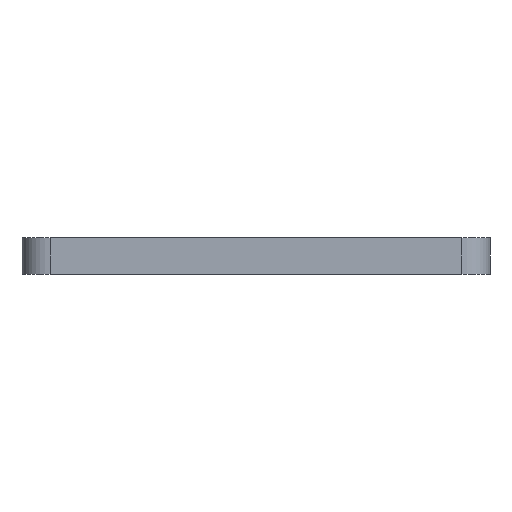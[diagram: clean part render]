
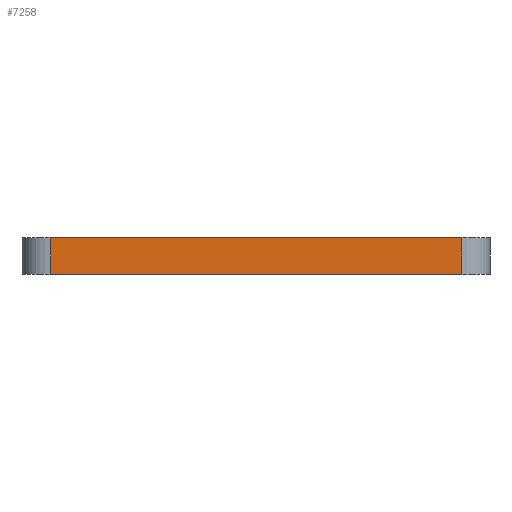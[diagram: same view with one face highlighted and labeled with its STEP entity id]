
A CAD part, left-side view. The second image highlights one B-rep face of the part: STEP entity #7258.
In plain terms, the highlighted planar face has unit normal (-1, 0, 0).
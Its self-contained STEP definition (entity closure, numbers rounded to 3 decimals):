
#137=PLANE('',#7788);
#543=FACE_OUTER_BOUND('',#969,.T.);
#969=EDGE_LOOP('',(#6362,#6363,#6364,#6365));
#2094=LINE('',#18264,#2420);
#2153=LINE('',#31227,#2479);
#2154=LINE('',#31230,#2480);
#2155=LINE('',#31231,#2481);
#2420=VECTOR('',#8684,1000.);
#2479=VECTOR('',#9107,1000.);
#2480=VECTOR('',#9110,1000.);
#2481=VECTOR('',#9111,1000.);
#3117=VERTEX_POINT('',#18261);
#3118=VERTEX_POINT('',#18263);
#3225=VERTEX_POINT('',#31225);
#3226=VERTEX_POINT('',#31229);
#4041=EDGE_CURVE('',#3117,#3118,#2094,.T.);
#4320=EDGE_CURVE('',#3117,#3225,#2153,.T.);
#4321=EDGE_CURVE('',#3225,#3226,#2154,.T.);
#4322=EDGE_CURVE('',#3118,#3226,#2155,.T.);
#6362=ORIENTED_EDGE('',*,*,#4321,.T.);
#6363=ORIENTED_EDGE('',*,*,#4322,.F.);
#6364=ORIENTED_EDGE('',*,*,#4041,.F.);
#6365=ORIENTED_EDGE('',*,*,#4320,.T.);
#7258=ADVANCED_FACE('',(#543),#137,.F.);
#7788=AXIS2_PLACEMENT_3D('',#31228,#9108,#9109);
#8684=DIRECTION('',(0.,-1.,0.));
#9107=DIRECTION('',(0.,0.,-1.));
#9108=DIRECTION('center_axis',(1.,0.,0.));
#9109=DIRECTION('ref_axis',(0.,1.,0.));
#9110=DIRECTION('',(0.,-1.,0.));
#9111=DIRECTION('',(0.,0.,-1.));
#18261=CARTESIAN_POINT('',(0.,37.12,-35.76));
#18263=CARTESIAN_POINT('',(0.,-31.12,-35.76));
#18264=CARTESIAN_POINT('',(0.,-31.12,-35.76));
#31225=CARTESIAN_POINT('',(0.,37.12,-41.76));
#31227=CARTESIAN_POINT('',(0.,37.12,-35.76));
#31228=CARTESIAN_POINT('Origin',(0.,-31.12,-35.76));
#31229=CARTESIAN_POINT('',(0.,-31.12,-41.76));
#31230=CARTESIAN_POINT('',(0.,-31.12,-41.76));
#31231=CARTESIAN_POINT('',(0.,-31.12,-35.76));
